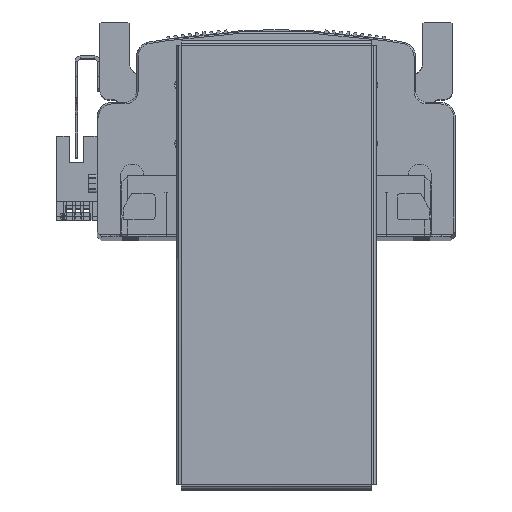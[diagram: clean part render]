
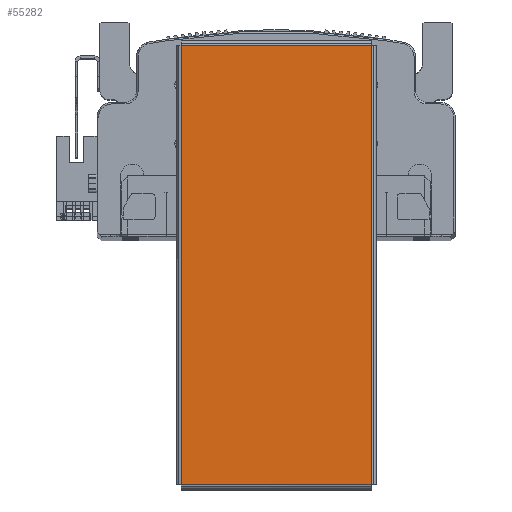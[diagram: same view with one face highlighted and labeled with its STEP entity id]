
A CAD part, top view. The second image highlights one B-rep face of the part: STEP entity #55282.
In plain terms, the highlighted planar face has unit normal (0, 0, 1) as drawn and (0, 0, -1) by its records, which use the part's own axes.
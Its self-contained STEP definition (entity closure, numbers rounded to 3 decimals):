
#13954 = LINE ( 'NONE', #23280, #14004 ) ;
#14004 = VECTOR ( 'NONE', #23301, 1000. ) ;
#14061 = LINE ( 'NONE', #23334, #14089 ) ;
#14079 = LINE ( 'NONE', #23360, #14099 ) ;
#14089 = VECTOR ( 'NONE', #23346, 1000. ) ;
#14099 = VECTOR ( 'NONE', #23372, 1000. ) ;
#14428 = VECTOR ( 'NONE', #23550, 1000. ) ;
#14468 = LINE ( 'NONE', #23589, #14428 ) ;
#18241 = ORIENTED_EDGE ( 'NONE', *, *, #80672, .T. ) ;
#21298 = ORIENTED_EDGE ( 'NONE', *, *, #80690, .T. ) ;
#21322 = ORIENTED_EDGE ( 'NONE', *, *, #80699, .T. ) ;
#21399 = ORIENTED_EDGE ( 'NONE', *, *, #80756, .T. ) ;
#23280 = CARTESIAN_POINT ( 'NONE',  ( -74.793, 32.363, -1. ) ) ;
#23301 = DIRECTION ( 'NONE',  ( 1., 0., 0. ) ) ;
#23334 = CARTESIAN_POINT ( 'NONE',  ( 74.793, -32.363, -1. ) ) ;
#23346 = DIRECTION ( 'NONE',  ( -1., 0., 0. ) ) ;
#23360 = CARTESIAN_POINT ( 'NONE',  ( 74.763, 32.393, -1. ) ) ;
#23372 = DIRECTION ( 'NONE',  ( 0., -1., 0. ) ) ;
#23550 = DIRECTION ( 'NONE',  ( 0., 1., 0. ) ) ;
#23589 = CARTESIAN_POINT ( 'NONE',  ( -74.763, -32.393, -1. ) ) ;
#34175 = AXIS2_PLACEMENT_3D ( 'NONE', #58715, #58808, #58720 ) ;
#46256 = CARTESIAN_POINT ( 'NONE',  ( 74.763, 32.363, -1. ) ) ;
#46296 = CARTESIAN_POINT ( 'NONE',  ( 74.763, -32.363, -1. ) ) ;
#46468 = CARTESIAN_POINT ( 'NONE',  ( -74.763, 32.363, -1. ) ) ;
#46662 = CARTESIAN_POINT ( 'NONE',  ( -74.763, -32.363, -1. ) ) ;
#55282 = ADVANCED_FACE ( 'NONE', ( #57260 ), #58722, .F. ) ;
#57260 = FACE_OUTER_BOUND ( 'NONE', #75612, .T. ) ;
#58715 = CARTESIAN_POINT ( 'NONE',  ( 0., 0., -1. ) ) ;
#58720 = DIRECTION ( 'NONE',  ( 1., 0., 0. ) ) ;
#58722 = PLANE ( 'NONE',  #34175 ) ;
#58808 = DIRECTION ( 'NONE',  ( 0., 0., 1. ) ) ;
#68135 = VERTEX_POINT ( 'NONE', #46256 ) ;
#68239 = VERTEX_POINT ( 'NONE', #46296 ) ;
#68257 = VERTEX_POINT ( 'NONE', #46468 ) ;
#68409 = VERTEX_POINT ( 'NONE', #46662 ) ;
#75612 = EDGE_LOOP ( 'NONE', ( #21322, #21298, #21399, #18241 ) ) ;
#80672 = EDGE_CURVE ( 'NONE', #68257, #68135, #13954, .T. ) ;
#80690 = EDGE_CURVE ( 'NONE', #68239, #68409, #14061, .T. ) ;
#80699 = EDGE_CURVE ( 'NONE', #68135, #68239, #14079, .T. ) ;
#80756 = EDGE_CURVE ( 'NONE', #68409, #68257, #14468, .T. ) ;
